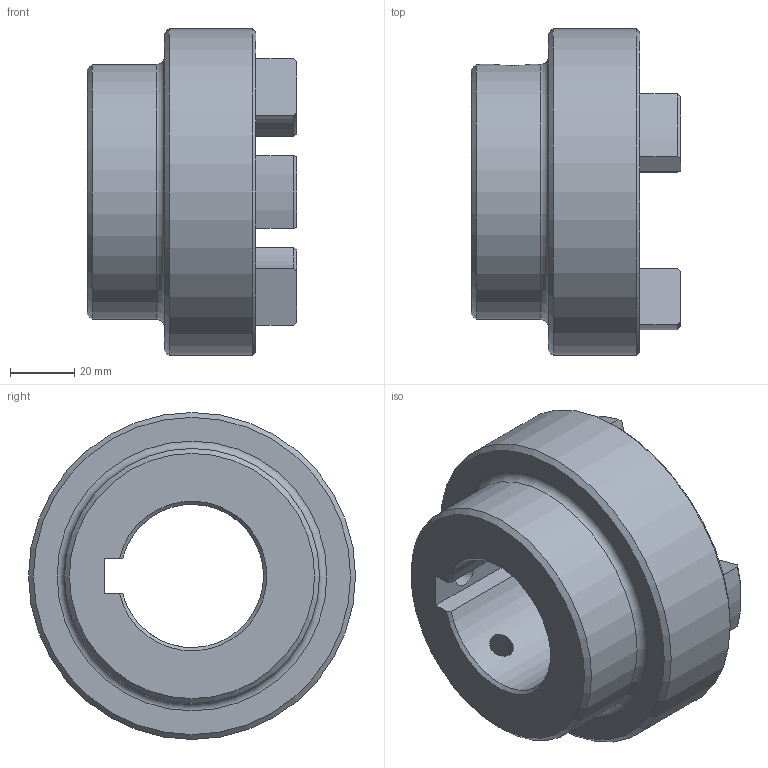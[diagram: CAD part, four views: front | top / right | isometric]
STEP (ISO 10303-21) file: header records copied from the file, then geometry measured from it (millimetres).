
FILE_DESCRIPTION (( 'STEP AP203' ), '1' );
FILE_NAME ('RC4.step', '2024-07-24T17:47:11', ( 'Adlan' ), ( '' ), 'SwSTEP 2.0', 'SolidWorks 2013', '' );
FILE_SCHEMA (( 'CONFIG_CONTROL_DESIGN' ));
Length unit declared in the file: inch
Products named in the file (1): RC4
Bounding box: 65.02 x 101.6 x 101.6 mm (x, y, z)
Volume: 218006 mm3; surface area: 41237.6 mm2
Topology: 1 solids, 1 shells, 67 faces, 168 edges, 105 vertices
Faces by surface type: cylinder 26, plane 16, torus 13, cone 12
Full cylindrical faces by diameter (mm): 7.937 x2, 79.248 x1, 101.6 x1
Entity records: 2277 total; most frequent: CARTESIAN_POINT 602, DIRECTION 354, ORIENTED_EDGE 310, EDGE_CURVE 155, AXIS2_PLACEMENT_3D 142, VERTEX_POINT 102, EDGE_LOOP 85, CIRCLE 74
